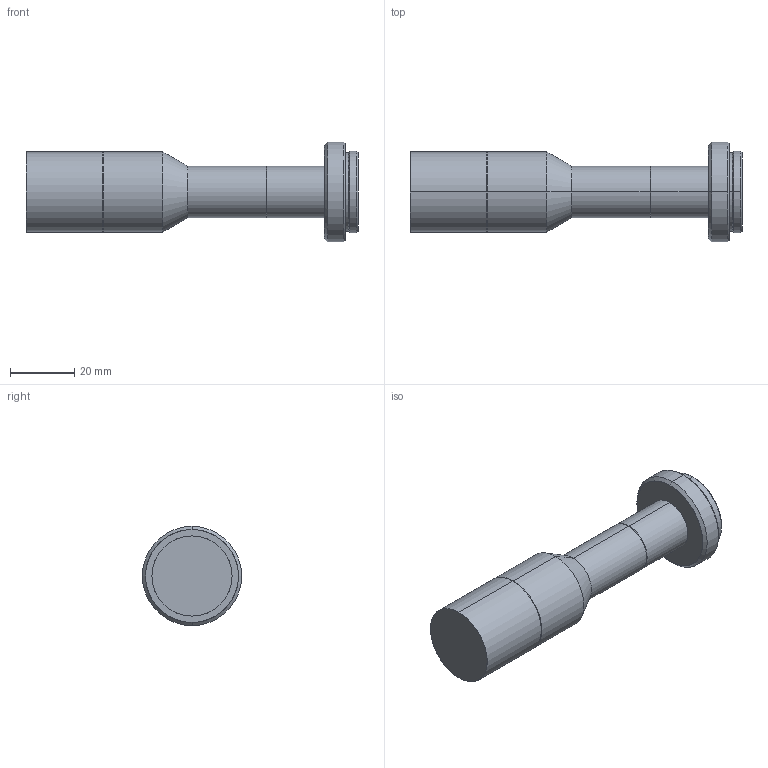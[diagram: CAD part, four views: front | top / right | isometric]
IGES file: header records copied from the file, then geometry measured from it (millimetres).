
Start section: SolidWorks IGES file using analytic representation for surfaces
Global section: file name: C:\Users\miura_vst\Desktop\3D\HP提出用過去の分確認\VS-TC08-65\VS-TC08-65.IGS; native system: SolidWorks 2015; preprocessor: SolidWorks 2015; author: miura_vst; date: 150828.144253; units: millimetre
Bounding box: 103.6 x 31 x 31 mm (x, y, z)
Surface area: 8772.6 mm2 (no closed solid volume)
Topology: 0 solids, 0 shells, 36 faces, 384 edges, 384 vertices
Faces by surface type: revolution 32, bspline 4
